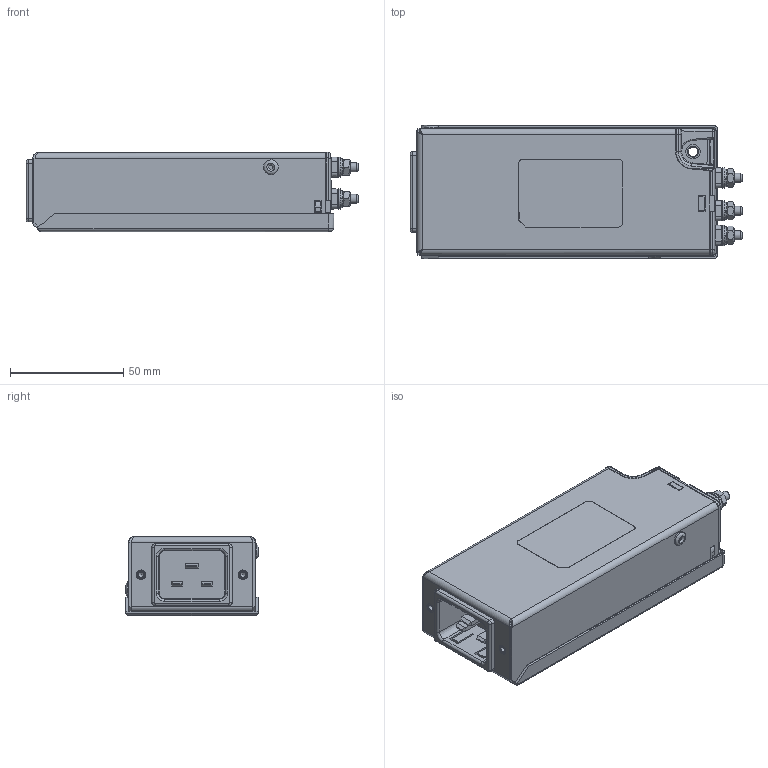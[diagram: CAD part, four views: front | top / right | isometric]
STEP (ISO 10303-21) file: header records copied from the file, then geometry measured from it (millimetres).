
FILE_DESCRIPTION(/* description */ (''),/* implementation_level */ '2;1');
FILE_NAME(/* name */ 'C:\Users\Christian.Ackermann\OneDrive - Schaffner EMV AG\Desktop\UMA_customerSTEP\FN264x-16_20-08.stp',/* time_stamp */ '2021-08-24T11:01:40+02:00',/* author */ ('Christian.Ackermann'),/* organization */ (''),/* preprocessor_version */ 'ST-DEVELOPER v18.1',/* originating_system */ 'Autodesk Inventor 2020',/* authorisation */ '');
FILE_SCHEMA (('AUTOMOTIVE_DESIGN { 1 0 10303 214 3 1 1 }'));
Length unit declared in the file: millimetre
Products named in the file (1): FN264x-16_20-08
Bounding box: 146.6 x 59 x 35.06 mm (x, y, z)
Volume: 243107.8 mm3; surface area: 45011.7 mm2
Topology: 1 solids, 1 shells, 1276 faces, 3253 edges, 1989 vertices
Faces by surface type: plane 578, cylinder 420, bspline 133, torus 61, cone 47, sphere 37
Full cylindrical faces by diameter (mm): 2 x2, 2.459 x2, 2.8 x3, 4 x6, 4.2 x1, 4.25 x2, 4.3 x3, 6.111 x1, 6.4 x2, 6.5 x2, 8.39 x2, 8.74 x3, 9 x3
Entity records: 42983 total; most frequent: CARTESIAN_POINT 10670, DIRECTION 6507, ORIENTED_EDGE 6478, EDGE_CURVE 3239, AXIS2_PLACEMENT_3D 2304, VERTEX_POINT 1989, LINE 1899, VECTOR 1899
